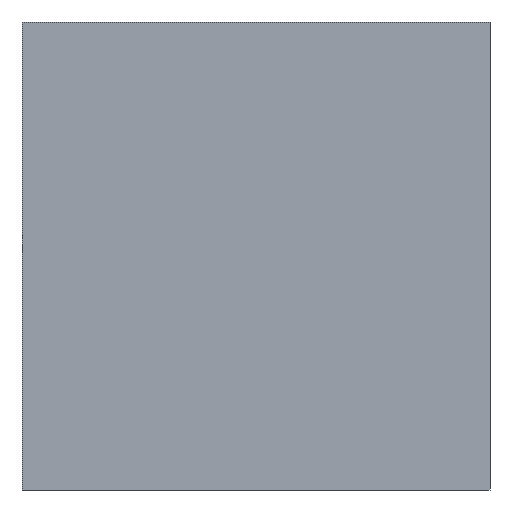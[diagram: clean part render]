
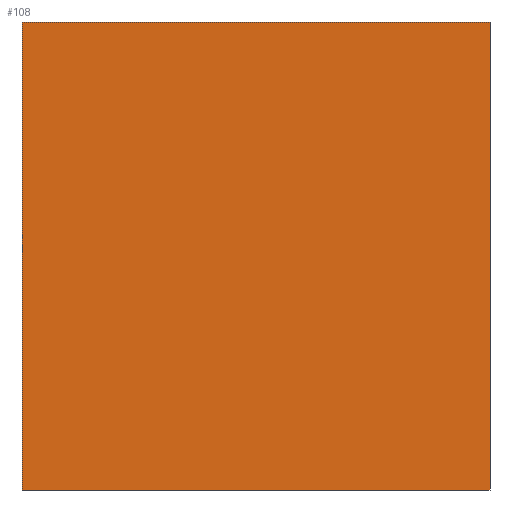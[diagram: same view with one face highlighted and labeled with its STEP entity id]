
A CAD part, left-side view. The second image highlights one B-rep face of the part: STEP entity #108.
In plain terms, the highlighted planar face has unit normal (-1, 0, 0).
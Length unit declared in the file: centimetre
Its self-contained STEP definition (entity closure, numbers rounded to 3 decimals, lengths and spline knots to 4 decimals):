
#23 = FACE_OUTER_BOUND ( 'NONE', #207, .T. ) ;
#28 = DIRECTION ( 'NONE',  ( 1., 0., 0. ) ) ;
#34 = ORIENTED_EDGE ( 'NONE', *, *, #171, .T. ) ;
#39 = EDGE_CURVE ( 'NONE', #508, #222, #182, .T. ) ;
#54 = DIRECTION ( 'NONE',  ( 0., 0., -1. ) ) ;
#61 = CARTESIAN_POINT ( 'NONE',  ( 0., 0., 1000. ) ) ;
#65 = VECTOR ( 'NONE', #54, 100. ) ;
#84 = ORIENTED_EDGE ( 'NONE', *, *, #321, .F. ) ;
#96 = CARTESIAN_POINT ( 'NONE',  ( 0., 0., 0. ) ) ;
#108 = ADVANCED_FACE ( 'NONE', ( #23 ), #402, .F. ) ;
#125 = CARTESIAN_POINT ( 'NONE',  ( 0., 0., 1000. ) ) ;
#126 = VECTOR ( 'NONE', #313, 100. ) ;
#146 = CARTESIAN_POINT ( 'NONE',  ( 0., 1000., 1000. ) ) ;
#150 = LINE ( 'NONE', #187, #126 ) ;
#160 = EDGE_CURVE ( 'NONE', #519, #189, #150, .T. ) ;
#169 = LINE ( 'NONE', #125, #65 ) ;
#171 = EDGE_CURVE ( 'NONE', #519, #508, #515, .T. ) ;
#175 = AXIS2_PLACEMENT_3D ( 'NONE', #195, #28, #447 ) ;
#182 = LINE ( 'NONE', #401, #531 ) ;
#187 = CARTESIAN_POINT ( 'NONE',  ( 0., 1000., 1000. ) ) ;
#189 = VERTEX_POINT ( 'NONE', #61 ) ;
#195 = CARTESIAN_POINT ( 'NONE',  ( 0., 1000., 1000. ) ) ;
#207 = EDGE_LOOP ( 'NONE', ( #473, #84, #530, #34 ) ) ;
#222 = VERTEX_POINT ( 'NONE', #96 ) ;
#225 = DIRECTION ( 'NONE',  ( 0., 0., -1. ) ) ;
#252 = CARTESIAN_POINT ( 'NONE',  ( 0., 1000., 1000. ) ) ;
#301 = DIRECTION ( 'NONE',  ( 0., -1., 0. ) ) ;
#313 = DIRECTION ( 'NONE',  ( 0., -1., 0. ) ) ;
#321 = EDGE_CURVE ( 'NONE', #189, #222, #169, .T. ) ;
#401 = CARTESIAN_POINT ( 'NONE',  ( 0., 1000., 0. ) ) ;
#402 = PLANE ( 'NONE',  #175 ) ;
#414 = VECTOR ( 'NONE', #225, 100. ) ;
#427 = CARTESIAN_POINT ( 'NONE',  ( 0., 1000., 0. ) ) ;
#447 = DIRECTION ( 'NONE',  ( 0., 0., -1. ) ) ;
#473 = ORIENTED_EDGE ( 'NONE', *, *, #39, .T. ) ;
#508 = VERTEX_POINT ( 'NONE', #427 ) ;
#515 = LINE ( 'NONE', #146, #414 ) ;
#519 = VERTEX_POINT ( 'NONE', #252 ) ;
#530 = ORIENTED_EDGE ( 'NONE', *, *, #160, .F. ) ;
#531 = VECTOR ( 'NONE', #301, 100. ) ;
